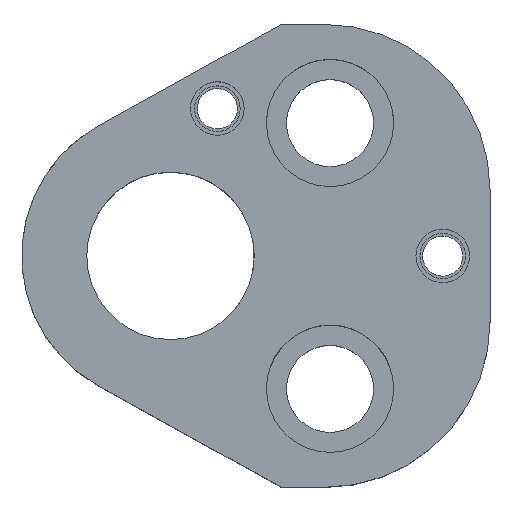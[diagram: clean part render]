
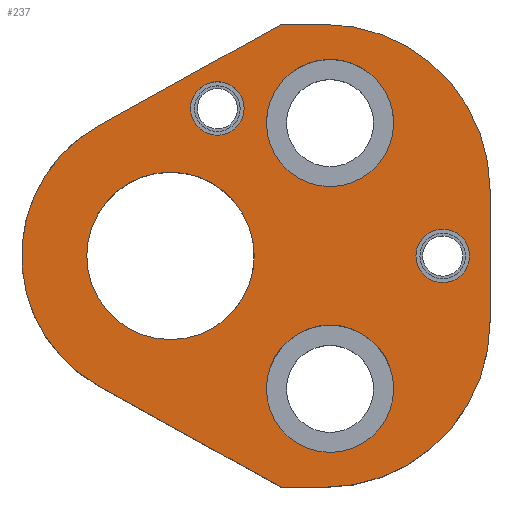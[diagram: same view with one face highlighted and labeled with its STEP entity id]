
A CAD part, top view. The second image highlights one B-rep face of the part: STEP entity #237.
In plain terms, the highlighted planar face has unit normal (0, 0, 1).
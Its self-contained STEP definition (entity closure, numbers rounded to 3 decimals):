
#113=FACE_BOUND('',#341,.T.);
#114=FACE_BOUND('',#342,.T.);
#115=FACE_BOUND('',#343,.T.);
#116=FACE_BOUND('',#344,.T.);
#117=FACE_BOUND('',#345,.T.);
#118=FACE_BOUND('',#346,.T.);
#149=CIRCLE('',#877,24.7);
#151=CIRCLE('',#881,24.7);
#154=CIRCLE('',#888,22.2);
#170=CIRCLE('',#913,9.5);
#172=CIRCLE('',#916,9.5);
#174=CIRCLE('',#920,9.5);
#176=CIRCLE('',#923,9.5);
#190=CIRCLE('',#949,4.);
#191=CIRCLE('',#950,4.);
#192=CIRCLE('',#951,4.);
#193=CIRCLE('',#952,4.);
#194=CIRCLE('',#953,12.5);
#195=CIRCLE('',#954,12.5);
#237=ADVANCED_FACE('',(#113,#114,#115,#116,#117,#118),#261,.T.);
#261=PLANE('',#955);
#341=EDGE_LOOP('',(#512,#513,#514,#515,#516,#517,#518,#519));
#342=EDGE_LOOP('',(#520,#521));
#343=EDGE_LOOP('',(#522,#523));
#344=EDGE_LOOP('',(#524,#525));
#345=EDGE_LOOP('',(#526,#527));
#346=EDGE_LOOP('',(#528,#529));
#512=ORIENTED_EDGE('',*,*,#678,.T.);
#513=ORIENTED_EDGE('',*,*,#657,.T.);
#514=ORIENTED_EDGE('',*,*,#661,.T.);
#515=ORIENTED_EDGE('',*,*,#664,.T.);
#516=ORIENTED_EDGE('',*,*,#667,.T.);
#517=ORIENTED_EDGE('',*,*,#670,.T.);
#518=ORIENTED_EDGE('',*,*,#673,.T.);
#519=ORIENTED_EDGE('',*,*,#682,.T.);
#520=ORIENTED_EDGE('',*,*,#744,.F.);
#521=ORIENTED_EDGE('',*,*,#745,.F.);
#522=ORIENTED_EDGE('',*,*,#746,.F.);
#523=ORIENTED_EDGE('',*,*,#747,.F.);
#524=ORIENTED_EDGE('',*,*,#722,.F.);
#525=ORIENTED_EDGE('',*,*,#718,.F.);
#526=ORIENTED_EDGE('',*,*,#716,.F.);
#527=ORIENTED_EDGE('',*,*,#712,.F.);
#528=ORIENTED_EDGE('',*,*,#748,.T.);
#529=ORIENTED_EDGE('',*,*,#749,.T.);
#583=VERTEX_POINT('',#1235);
#584=VERTEX_POINT('',#1237);
#587=VERTEX_POINT('',#1244);
#589=VERTEX_POINT('',#1250);
#591=VERTEX_POINT('',#1256);
#593=VERTEX_POINT('',#1262);
#595=VERTEX_POINT('',#1268);
#599=VERTEX_POINT('',#1279);
#622=VERTEX_POINT('',#1349);
#623=VERTEX_POINT('',#1350);
#626=VERTEX_POINT('',#1362);
#627=VERTEX_POINT('',#1363);
#642=VERTEX_POINT('',#1417);
#643=VERTEX_POINT('',#1418);
#644=VERTEX_POINT('',#1421);
#645=VERTEX_POINT('',#1422);
#646=VERTEX_POINT('',#1425);
#647=VERTEX_POINT('',#1426);
#657=EDGE_CURVE('',#584,#583,#768,.T.);
#661=EDGE_CURVE('',#583,#587,#149,.T.);
#664=EDGE_CURVE('',#587,#589,#773,.T.);
#667=EDGE_CURVE('',#589,#591,#151,.T.);
#670=EDGE_CURVE('',#591,#593,#777,.T.);
#673=EDGE_CURVE('',#593,#595,#780,.T.);
#678=EDGE_CURVE('',#599,#584,#785,.T.);
#682=EDGE_CURVE('',#595,#599,#154,.T.);
#712=EDGE_CURVE('',#622,#623,#170,.T.);
#716=EDGE_CURVE('',#623,#622,#172,.T.);
#718=EDGE_CURVE('',#626,#627,#174,.T.);
#722=EDGE_CURVE('',#627,#626,#176,.T.);
#744=EDGE_CURVE('',#642,#643,#190,.T.);
#745=EDGE_CURVE('',#643,#642,#191,.T.);
#746=EDGE_CURVE('',#644,#645,#192,.T.);
#747=EDGE_CURVE('',#645,#644,#193,.T.);
#748=EDGE_CURVE('',#646,#647,#194,.T.);
#749=EDGE_CURVE('',#647,#646,#195,.T.);
#768=LINE('',#1236,#822);
#773=LINE('',#1251,#827);
#777=LINE('',#1263,#831);
#780=LINE('',#1269,#834);
#785=LINE('',#1278,#839);
#822=VECTOR('',#979,1.);
#827=VECTOR('',#992,1.);
#831=VECTOR('',#1004,1.);
#834=VECTOR('',#1009,1.);
#839=VECTOR('',#1016,1.);
#877=AXIS2_PLACEMENT_3D('',#1245,#985,#986);
#881=AXIS2_PLACEMENT_3D('',#1257,#997,#998);
#888=AXIS2_PLACEMENT_3D('',#1286,#1023,#1024);
#913=AXIS2_PLACEMENT_3D('',#1348,#1086,#1087);
#916=AXIS2_PLACEMENT_3D('',#1357,#1094,#1095);
#920=AXIS2_PLACEMENT_3D('',#1361,#1102,#1103);
#923=AXIS2_PLACEMENT_3D('',#1370,#1110,#1111);
#949=AXIS2_PLACEMENT_3D('',#1416,#1170,#1171);
#950=AXIS2_PLACEMENT_3D('',#1419,#1172,#1173);
#951=AXIS2_PLACEMENT_3D('',#1420,#1174,#1175);
#952=AXIS2_PLACEMENT_3D('',#1423,#1176,#1177);
#953=AXIS2_PLACEMENT_3D('',#1424,#1178,#1179);
#954=AXIS2_PLACEMENT_3D('',#1427,#1180,#1181);
#955=AXIS2_PLACEMENT_3D('',#1428,#1182,#1183);
#979=DIRECTION('',(1.,0.,0.));
#985=DIRECTION('',(0.,0.,1.));
#986=DIRECTION('',(-0.707,0.707,0.));
#992=DIRECTION('',(0.,1.,0.));
#997=DIRECTION('',(0.,0.,1.));
#998=DIRECTION('',(-0.707,-0.707,0.));
#1004=DIRECTION('',(-1.,0.,0.));
#1009=DIRECTION('',(-0.875,-0.485,0.));
#1016=DIRECTION('',(0.875,-0.485,0.));
#1023=DIRECTION('',(0.,0.,1.));
#1024=DIRECTION('',(1.,0.,0.));
#1086=DIRECTION('',(0.,0.,1.));
#1087=DIRECTION('',(-1.,0.,0.));
#1094=DIRECTION('',(0.,0.,1.));
#1095=DIRECTION('',(1.,0.,0.));
#1102=DIRECTION('',(0.,0.,1.));
#1103=DIRECTION('',(-1.,0.,0.));
#1110=DIRECTION('',(0.,0.,1.));
#1111=DIRECTION('',(1.,0.,0.));
#1170=DIRECTION('',(0.,0.,1.));
#1171=DIRECTION('',(1.,0.,0.));
#1172=DIRECTION('',(0.,0.,1.));
#1173=DIRECTION('',(-1.,0.,0.));
#1174=DIRECTION('',(0.,0.,1.));
#1175=DIRECTION('',(1.,0.,0.));
#1176=DIRECTION('',(0.,0.,1.));
#1177=DIRECTION('',(-1.,0.,0.));
#1178=DIRECTION('',(0.,0.,-1.));
#1179=DIRECTION('',(-1.,0.,0.));
#1180=DIRECTION('',(0.,0.,-1.));
#1181=DIRECTION('',(1.,0.,0.));
#1182=DIRECTION('',(0.,0.,1.));
#1183=DIRECTION('',(-0.875,0.485,0.));
#1235=CARTESIAN_POINT('',(23.,-34.55,25.));
#1236=CARTESIAN_POINT('',(16.539,-34.55,25.));
#1237=CARTESIAN_POINT('',(16.539,-34.55,25.));
#1244=CARTESIAN_POINT('',(47.7,-9.85,25.));
#1245=CARTESIAN_POINT('',(23.,-9.85,25.));
#1250=CARTESIAN_POINT('',(47.7,9.85,25.));
#1251=CARTESIAN_POINT('',(47.7,9.85,25.));
#1256=CARTESIAN_POINT('',(23.,34.55,25.));
#1257=CARTESIAN_POINT('',(23.,9.85,25.));
#1262=CARTESIAN_POINT('',(16.539,34.55,25.));
#1263=CARTESIAN_POINT('',(16.539,34.55,25.));
#1268=CARTESIAN_POINT('',(-10.763,19.417,25.));
#1269=CARTESIAN_POINT('',(16.539,34.55,25.));
#1278=CARTESIAN_POINT('',(16.539,-34.55,25.));
#1279=CARTESIAN_POINT('',(-10.763,-19.417,25.));
#1286=CARTESIAN_POINT('',(0.,0.,25.));
#1348=CARTESIAN_POINT('',(23.82,-19.84,25.));
#1349=CARTESIAN_POINT('',(23.82,-29.34,25.));
#1350=CARTESIAN_POINT('',(23.82,-10.34,25.));
#1357=CARTESIAN_POINT('',(23.82,-19.84,25.));
#1361=CARTESIAN_POINT('',(23.82,19.84,25.));
#1362=CARTESIAN_POINT('',(23.82,10.34,25.));
#1363=CARTESIAN_POINT('',(23.82,29.34,25.));
#1370=CARTESIAN_POINT('',(23.82,19.84,25.));
#1416=CARTESIAN_POINT('',(40.64,0.,25.));
#1417=CARTESIAN_POINT('',(40.64,4.,25.));
#1418=CARTESIAN_POINT('',(40.64,-4.,25.));
#1419=CARTESIAN_POINT('',(40.64,0.,25.));
#1420=CARTESIAN_POINT('',(7.,22.,25.));
#1421=CARTESIAN_POINT('',(7.,26.,25.));
#1422=CARTESIAN_POINT('',(7.,18.,25.));
#1423=CARTESIAN_POINT('',(7.,22.,25.));
#1424=CARTESIAN_POINT('',(0.,0.,25.));
#1425=CARTESIAN_POINT('',(0.,12.5,25.));
#1426=CARTESIAN_POINT('',(0.,-12.5,25.));
#1427=CARTESIAN_POINT('',(0.,0.,25.));
#1428=CARTESIAN_POINT('',(-10.763,-19.417,25.));
